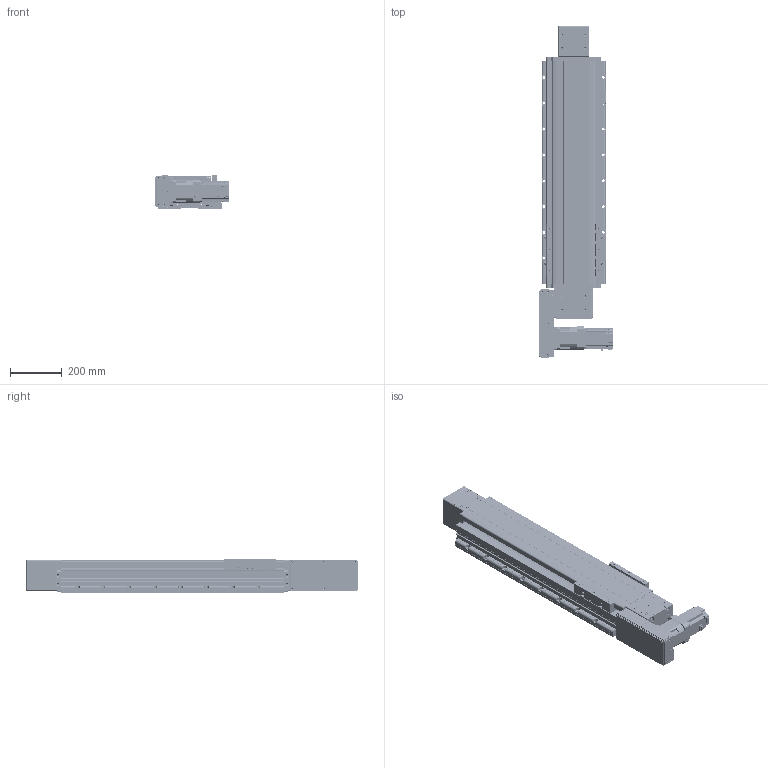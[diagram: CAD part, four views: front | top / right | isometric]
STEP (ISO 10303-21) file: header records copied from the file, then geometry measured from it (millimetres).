
FILE_DESCRIPTION(/* description */ (''),/* implementation_level */ '2;1');
FILE_NAME(/* name */ '\\192.168.0.160\disk1\HAN SHIN Master\B-설계부문\C-표준\B-2024년\BC02-표준도면\+로봇 개선표준도면\홈페이지 표준 도면\홈페이지 최종 작업 폴더\3D\HSB\HSB210\HSB210-R7G-N-0600-L.stp',/* time_stamp */ '2025-01-08T16:58:17+09:00',/* author */ ('user'),/* organization */ (''),/* preprocessor_version */ 'ST-DEVELOPER v18.1',/* originating_system */ 'Autodesk Inventor 2022',/* authorisation */ '');
FILE_SCHEMA (('AUTOMOTIVE_DESIGN { 1 0 10303 214 3 1 1 }'));
Products named in the file (37): HSB210-R7G-N-0500-L; HSB210 BASE - 2000ST; HSB210 FORNT HOUSUNG-Connecting Shaft; HSB160 SHAFT-1; HSB160 BEARING OVER; HSB210 FRONT COVER; REAR HOUSUNG-1-R1; HSB160 ARC COVER; HSB160 REAR SHAFT-2; REAR SHAFT--2; 6004ZZ; 6004ZZ Outer ring; 6004ZZ Shield1; 6004ZZ Inner ring; 6004ZZ Ball; 6004ZZ Shield2; UPCOVER; SIDE COVER; PGX90-H-1_3; HR200 SENSOR DOG; hsr_ftht_A-M6F_grease_nipple_joint; NIPPLE CAP(신규); SENSOR BRK(EE-SX674A); EE_SX674A; 6308ZZ; TENSION PLATE; HSB210 END COVER-1; HG90STOPPER - 27L; HSB210 TABLE (TEST); hg-kr73_; HSB210 L MOTOR PLATE ASSY; HG200 750W LR MOTOR PLATE-사출; 750W MOTOR PLATE; HR180,200-ACRYL COVER 2; HR180,200-ACRYL COVER; HG200-R L-BELT COVER; HR180,200-ACRYL COVER 3
Assembly tree (70 placements, depth 3):
  HSB210-R7G-N-0500-L
    HSB210 BASE - 2000ST
    HSB210 FRONT COVER  x2
    HSB210 FORNT HOUSUNG-Connecting Shaft
    HSB160 SHAFT-1
    HSB160 BEARING OVER
    HSB160 ARC COVER  x4
    REAR HOUSUNG-1-R1
    HSB160 REAR SHAFT-2
    REAR SHAFT--2
    6004ZZ  x2
      6004ZZ Outer ring
      6004ZZ Shield1
      6004ZZ Inner ring
      6004ZZ Ball
      6004ZZ Shield2
    TENSION PLATE  x2
    UPCOVER
    SIDE COVER  x2
    PGX90-H-1_3
    HG90STOPPER - 27L  x4
    HR200 SENSOR DOG
    SENSOR BRK(EE-SX674A)  x3
    EE_SX674A  x3
    NIPPLE CAP(신규)  x4
    hsr_ftht_A-M6F_grease_nipple_joint  x4
    6308ZZ  x2
    HSB210 END COVER-1
    HSB210 TABLE (TEST)
    hg-kr73_
    HSB210 L MOTOR PLATE ASSY
      HG200 750W LR MOTOR PLATE-사출
      750W MOTOR PLATE
      HR180,200-ACRYL COVER 2
      HR180,200-ACRYL COVER 3  x2
      HR180,200-ACRYL COVER
      HG200-R L-BELT COVER
Bounding box: 284.5 x 1285.5 x 130 mm (x, y, z)
Volume: 12435427.6 mm3; surface area: 2830195.3 mm2
Topology: 131 solids, 133 shells, 8001 faces, 22259 edges, 14699 vertices
Faces by surface type: plane 6032, cylinder 1407, cone 394, sphere 84, torus 59, bspline 25
Full cylindrical faces by diameter (mm): 2.013 x2, 2.459 x48, 3 x8, 3.2 x4, 3.242 x58, 3.4 x20, 3.5 x6, 4.134 x2, 4.2 x16, 4.5 x36, 4.917 x36, 5 x56, 5.1 x1, 5.5 x13, 5.6 x4, 5.9 x4, 6 x15, 6.5 x9, 6.6 x8, 6.647 x46, 6.8 x9, 7 x20, 7.6 x4, 8 x13, 8.433 x2, 9 x46, 9.5 x7, 10 x5, 10.106 x16, 11 x20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
Entity records: 174966 total; most frequent: CARTESIAN_POINT 34054, ORIENTED_EDGE 29192, DIRECTION 27982, EDGE_CURVE 14596, LINE 11334, VECTOR 11334, VERTEX_POINT 9730, AXIS2_PLACEMENT_3D 8324
